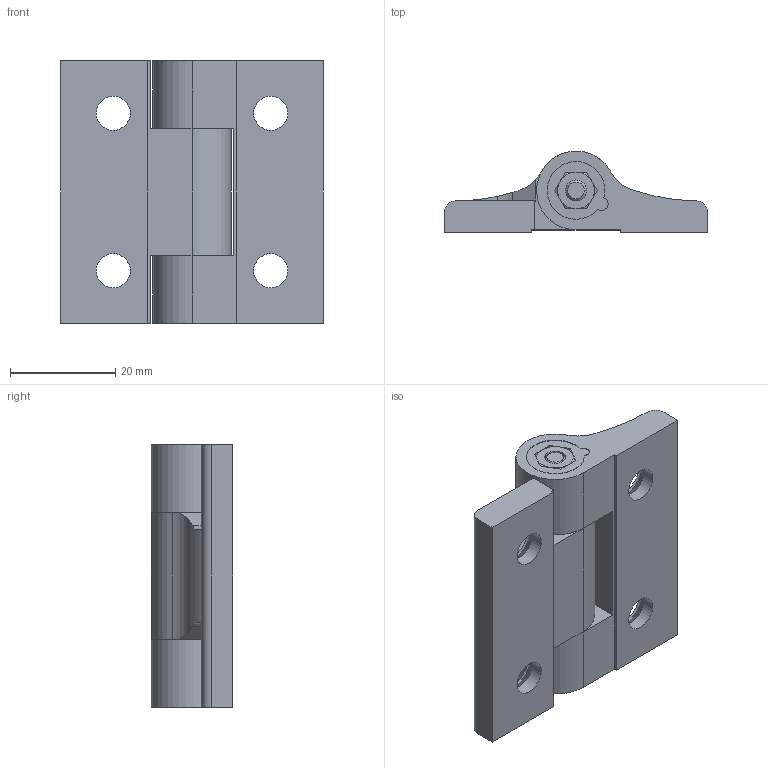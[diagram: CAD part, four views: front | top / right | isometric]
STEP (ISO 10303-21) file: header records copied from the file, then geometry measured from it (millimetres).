
FILE_DESCRIPTION( ( 'STEP AP203' ), '1' );
FILE_NAME( 'C:/Temp/Ganter_Step_05_03_2020/data/3_3/gn_437/Hinge GN 437-ZD-50-50-A-SW (0).stp', '2020-03-12T11:57:27', ( 'License CC BY-ND 4.0' ), ( 'CADENAS' ), ' ', 'PARTsolutions', ' ' );
FILE_SCHEMA( ( 'CONFIG_CONTROL_DESIGN' ) );
Length unit declared in the file: millimetre
Products named in the file (3): Hinge GN 437-ZD-50-50-A-SW (0); _Hinge GN 437-ZD-50-50-A-SW-1; _Scharnier GN 437-ZD-50-50-A-SW (0)-2
Assembly tree (2 placements, depth 2):
  Hinge GN 437-ZD-50-50-A-SW (0)
    _Hinge GN 437-ZD-50-50-A-SW-1
    _Scharnier GN 437-ZD-50-50-A-SW (0)-2
Bounding box: 50 x 15.48 x 50 mm (x, y, z)
Volume: 18658 mm3; surface area: 10180.5 mm2
Topology: 2 solids, 3 shells, 121 faces, 298 edges, 190 vertices
Faces by surface type: plane 76, cylinder 29, cone 15, torus 1
Full cylindrical faces by diameter (mm): 4 x2, 4.2 x2, 6.5 x4, 6.6 x1, 7 x2, 12.4 x4
Entity records: 3567 total; most frequent: CARTESIAN_POINT 677, DIRECTION 579, ORIENTED_EDGE 534, EDGE_CURVE 267, AXIS2_PLACEMENT_3D 206, VERTEX_POINT 184, EDGE_LOOP 167, LINE 167
